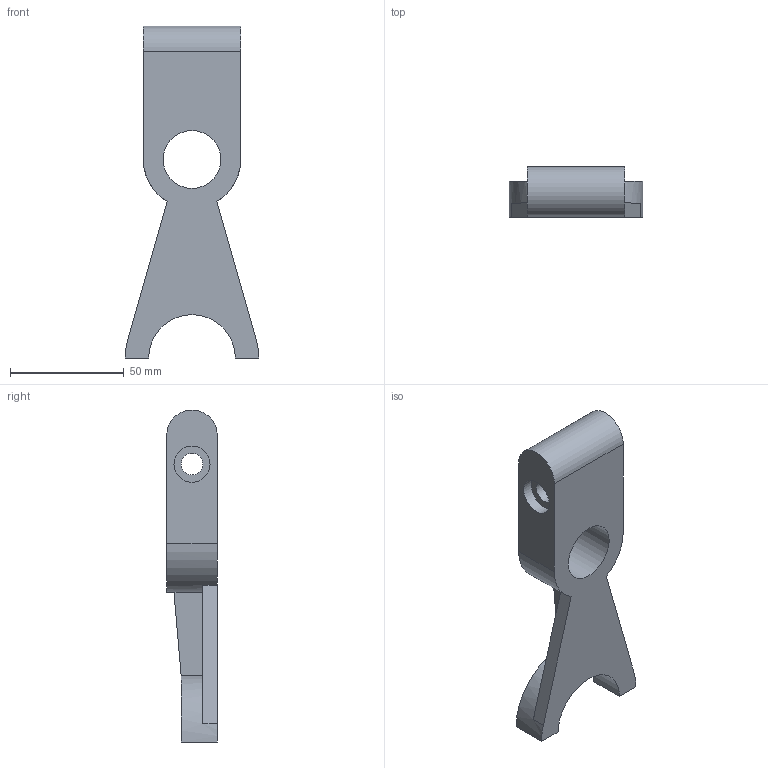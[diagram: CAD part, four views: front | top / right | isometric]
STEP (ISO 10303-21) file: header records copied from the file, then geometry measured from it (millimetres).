
FILE_DESCRIPTION(/* description */ ('Alibre Inc.'),/* implementation_level */ '2;1');
FILE_NAME(/* name */ 'Exercise 6',/* time_stamp */ '2003-12-09T12:29:30-06:00',/* author */ (''),/* organization */ (''),/* preprocessor_version */ 'ST-DEVELOPER v9',/* originating_system */ 'Alibre',/* authorisation */ '');
FILE_SCHEMA (('ALIBRE_SCHEMA','CONFIG_CONTROL_DESIGN'));
Length unit declared in the file: centimetre
Products named in the file (1): ID_1
Bounding box: 58.75 x 22.23 x 146.05 mm (x, y, z)
Volume: 78460.1 mm3; surface area: 21457.7 mm2
Topology: 1 solids, 1 shells, 29 faces, 69 edges, 44 vertices
Faces by surface type: plane 20, cylinder 9
Full cylindrical faces by diameter (mm): 9.525 x1, 15.875 x2, 25.4 x1
Entity records: 2257 total; most frequent: CARTESIAN_POINT 321, DIRECTION 175, ORIENTED_EDGE 134, REFERENCEDEPENDENTUV 133, CONSTRAINTPAIRUV 125, VECTOR 94, PERSISTANTTOPOLOGYATTRIBUTE 87, REFERENCEPOINTUV 78
